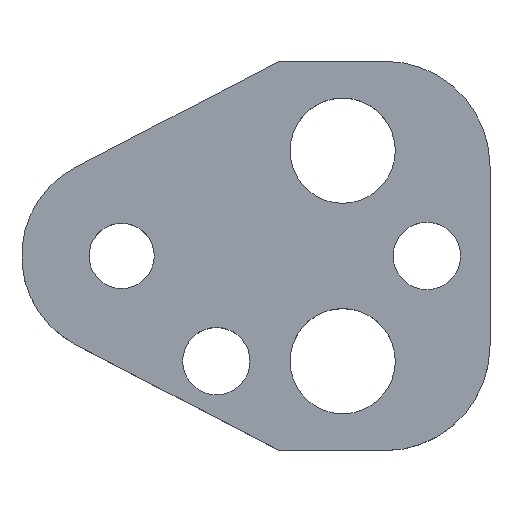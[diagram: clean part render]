
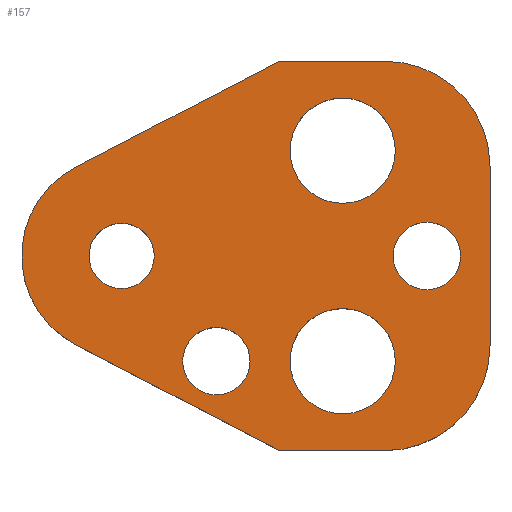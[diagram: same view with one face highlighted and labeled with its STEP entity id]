
A CAD part, top view. The second image highlights one B-rep face of the part: STEP entity #157.
In plain terms, the highlighted planar face has unit normal (0, 0, 1).
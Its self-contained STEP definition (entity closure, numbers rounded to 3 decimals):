
#103=FACE_BOUND('',#207,.T.);
#104=FACE_BOUND('',#208,.T.);
#105=FACE_BOUND('',#209,.T.);
#106=FACE_BOUND('',#210,.T.);
#107=FACE_BOUND('',#211,.T.);
#108=FACE_BOUND('',#212,.T.);
#122=CIRCLE('',#480,10.);
#124=CIRCLE('',#484,10.);
#127=CIRCLE('',#490,9.5);
#138=CIRCLE('',#503,3.2);
#139=CIRCLE('',#504,3.2);
#140=CIRCLE('',#505,5.);
#141=CIRCLE('',#506,5.);
#142=CIRCLE('',#507,5.);
#143=CIRCLE('',#508,5.);
#144=CIRCLE('',#509,3.2);
#145=CIRCLE('',#510,3.2);
#146=CIRCLE('',#511,3.1);
#147=CIRCLE('',#512,3.1);
#157=ADVANCED_FACE('',(#103,#104,#105,#106,#107,#108),#174,.T.);
#174=PLANE('',#513);
#207=EDGE_LOOP('',(#273,#274,#275,#276,#277,#278,#279,#280));
#208=EDGE_LOOP('',(#281,#282));
#209=EDGE_LOOP('',(#283,#284));
#210=EDGE_LOOP('',(#285,#286));
#211=EDGE_LOOP('',(#287,#288));
#212=EDGE_LOOP('',(#289,#290));
#273=ORIENTED_EDGE('',*,*,#368,.T.);
#274=ORIENTED_EDGE('',*,*,#372,.T.);
#275=ORIENTED_EDGE('',*,*,#375,.T.);
#276=ORIENTED_EDGE('',*,*,#378,.T.);
#277=ORIENTED_EDGE('',*,*,#381,.T.);
#278=ORIENTED_EDGE('',*,*,#384,.T.);
#279=ORIENTED_EDGE('',*,*,#387,.T.);
#280=ORIENTED_EDGE('',*,*,#390,.T.);
#281=ORIENTED_EDGE('',*,*,#401,.T.);
#282=ORIENTED_EDGE('',*,*,#402,.T.);
#283=ORIENTED_EDGE('',*,*,#403,.T.);
#284=ORIENTED_EDGE('',*,*,#404,.T.);
#285=ORIENTED_EDGE('',*,*,#405,.T.);
#286=ORIENTED_EDGE('',*,*,#406,.T.);
#287=ORIENTED_EDGE('',*,*,#407,.T.);
#288=ORIENTED_EDGE('',*,*,#408,.T.);
#289=ORIENTED_EDGE('',*,*,#409,.T.);
#290=ORIENTED_EDGE('',*,*,#410,.T.);
#332=VERTEX_POINT('',#649);
#333=VERTEX_POINT('',#651);
#336=VERTEX_POINT('',#658);
#338=VERTEX_POINT('',#664);
#340=VERTEX_POINT('',#670);
#342=VERTEX_POINT('',#676);
#344=VERTEX_POINT('',#682);
#346=VERTEX_POINT('',#688);
#357=VERTEX_POINT('',#717);
#358=VERTEX_POINT('',#718);
#359=VERTEX_POINT('',#721);
#360=VERTEX_POINT('',#722);
#361=VERTEX_POINT('',#725);
#362=VERTEX_POINT('',#726);
#363=VERTEX_POINT('',#729);
#364=VERTEX_POINT('',#730);
#365=VERTEX_POINT('',#733);
#366=VERTEX_POINT('',#734);
#368=EDGE_CURVE('',#333,#332,#422,.T.);
#372=EDGE_CURVE('',#332,#336,#426,.T.);
#375=EDGE_CURVE('',#336,#338,#122,.T.);
#378=EDGE_CURVE('',#338,#340,#430,.T.);
#381=EDGE_CURVE('',#340,#342,#124,.T.);
#384=EDGE_CURVE('',#342,#344,#434,.T.);
#387=EDGE_CURVE('',#344,#346,#437,.T.);
#390=EDGE_CURVE('',#346,#333,#127,.T.);
#401=EDGE_CURVE('',#357,#358,#138,.T.);
#402=EDGE_CURVE('',#358,#357,#139,.T.);
#403=EDGE_CURVE('',#359,#360,#140,.T.);
#404=EDGE_CURVE('',#360,#359,#141,.T.);
#405=EDGE_CURVE('',#361,#362,#142,.T.);
#406=EDGE_CURVE('',#362,#361,#143,.T.);
#407=EDGE_CURVE('',#363,#364,#144,.T.);
#408=EDGE_CURVE('',#364,#363,#145,.T.);
#409=EDGE_CURVE('',#365,#366,#146,.T.);
#410=EDGE_CURVE('',#366,#365,#147,.T.);
#422=LINE('',#650,#450);
#426=LINE('',#659,#454);
#430=LINE('',#671,#458);
#434=LINE('',#683,#462);
#437=LINE('',#689,#465);
#450=VECTOR('',#527,1.);
#454=VECTOR('',#533,1.);
#458=VECTOR('',#545,1.);
#462=VECTOR('',#557,1.);
#465=VECTOR('',#562,1.);
#480=AXIS2_PLACEMENT_3D('',#665,#538,#539);
#484=AXIS2_PLACEMENT_3D('',#677,#550,#551);
#490=AXIS2_PLACEMENT_3D('',#693,#568,#569);
#503=AXIS2_PLACEMENT_3D('',#716,#594,#595);
#504=AXIS2_PLACEMENT_3D('',#719,#596,#597);
#505=AXIS2_PLACEMENT_3D('',#720,#598,#599);
#506=AXIS2_PLACEMENT_3D('',#723,#600,#601);
#507=AXIS2_PLACEMENT_3D('',#724,#602,#603);
#508=AXIS2_PLACEMENT_3D('',#727,#604,#605);
#509=AXIS2_PLACEMENT_3D('',#728,#606,#607);
#510=AXIS2_PLACEMENT_3D('',#731,#608,#609);
#511=AXIS2_PLACEMENT_3D('',#732,#610,#611);
#512=AXIS2_PLACEMENT_3D('',#735,#612,#613);
#513=AXIS2_PLACEMENT_3D('',#736,#614,#615);
#527=DIRECTION('',(0.887,-0.461,0.));
#533=DIRECTION('',(1.,0.,0.));
#538=DIRECTION('',(0.,0.,1.));
#539=DIRECTION('',(-0.707,0.707,0.));
#545=DIRECTION('',(0.,1.,0.));
#550=DIRECTION('',(0.,0.,1.));
#551=DIRECTION('',(-0.707,-0.707,0.));
#557=DIRECTION('',(-1.,0.,0.));
#562=DIRECTION('',(-0.887,-0.461,0.));
#568=DIRECTION('',(0.,0.,1.));
#569=DIRECTION('',(1.,0.,0.));
#594=DIRECTION('',(0.,0.,-1.));
#595=DIRECTION('',(-1.,0.,0.));
#596=DIRECTION('',(0.,0.,-1.));
#597=DIRECTION('',(1.,0.,0.));
#598=DIRECTION('',(0.,0.,-1.));
#599=DIRECTION('',(-1.,0.,0.));
#600=DIRECTION('',(0.,0.,-1.));
#601=DIRECTION('',(1.,0.,0.));
#602=DIRECTION('',(0.,0.,-1.));
#603=DIRECTION('',(-1.,0.,0.));
#604=DIRECTION('',(0.,0.,-1.));
#605=DIRECTION('',(1.,0.,0.));
#606=DIRECTION('',(0.,0.,-1.));
#607=DIRECTION('',(-1.,0.,0.));
#608=DIRECTION('',(0.,0.,-1.));
#609=DIRECTION('',(1.,0.,0.));
#610=DIRECTION('',(0.,0.,-1.));
#611=DIRECTION('',(-1.,0.,0.));
#612=DIRECTION('',(0.,0.,-1.));
#613=DIRECTION('',(1.,0.,0.));
#614=DIRECTION('',(0.,0.,1.));
#615=DIRECTION('',(0.887,-0.461,0.));
#649=CARTESIAN_POINT('',(15.,-18.5,9.));
#650=CARTESIAN_POINT('',(15.,-18.5,9.));
#651=CARTESIAN_POINT('',(-4.38,-8.43,9.));
#658=CARTESIAN_POINT('',(25.,-18.5,9.));
#659=CARTESIAN_POINT('',(15.,-18.5,9.));
#664=CARTESIAN_POINT('',(35.,-8.5,9.));
#665=CARTESIAN_POINT('',(25.,-8.5,9.));
#670=CARTESIAN_POINT('',(35.,8.5,9.));
#671=CARTESIAN_POINT('',(35.,8.5,9.));
#676=CARTESIAN_POINT('',(25.,18.5,9.));
#677=CARTESIAN_POINT('',(25.,8.5,9.));
#682=CARTESIAN_POINT('',(15.,18.5,9.));
#683=CARTESIAN_POINT('',(15.,18.5,9.));
#688=CARTESIAN_POINT('',(-4.38,8.43,9.));
#689=CARTESIAN_POINT('',(15.,18.5,9.));
#693=CARTESIAN_POINT('',(0.,0.,9.));
#716=CARTESIAN_POINT('',(29.,0.,9.));
#717=CARTESIAN_POINT('',(29.,3.2,9.));
#718=CARTESIAN_POINT('',(29.,-3.2,9.));
#719=CARTESIAN_POINT('',(29.,0.,9.));
#720=CARTESIAN_POINT('',(21.,10.,9.));
#721=CARTESIAN_POINT('',(21.,15.,9.));
#722=CARTESIAN_POINT('',(21.,5.,9.));
#723=CARTESIAN_POINT('',(21.,10.,9.));
#724=CARTESIAN_POINT('',(21.,-10.,9.));
#725=CARTESIAN_POINT('',(21.,-5.,9.));
#726=CARTESIAN_POINT('',(21.,-15.,9.));
#727=CARTESIAN_POINT('',(21.,-10.,9.));
#728=CARTESIAN_POINT('',(9.,-10.,9.));
#729=CARTESIAN_POINT('',(9.,-6.8,9.));
#730=CARTESIAN_POINT('',(9.,-13.2,9.));
#731=CARTESIAN_POINT('',(9.,-10.,9.));
#732=CARTESIAN_POINT('',(0.,0.,9.));
#733=CARTESIAN_POINT('',(0.,3.1,9.));
#734=CARTESIAN_POINT('',(0.,-3.1,9.));
#735=CARTESIAN_POINT('',(0.,0.,9.));
#736=CARTESIAN_POINT('',(-4.38,-8.43,9.));
